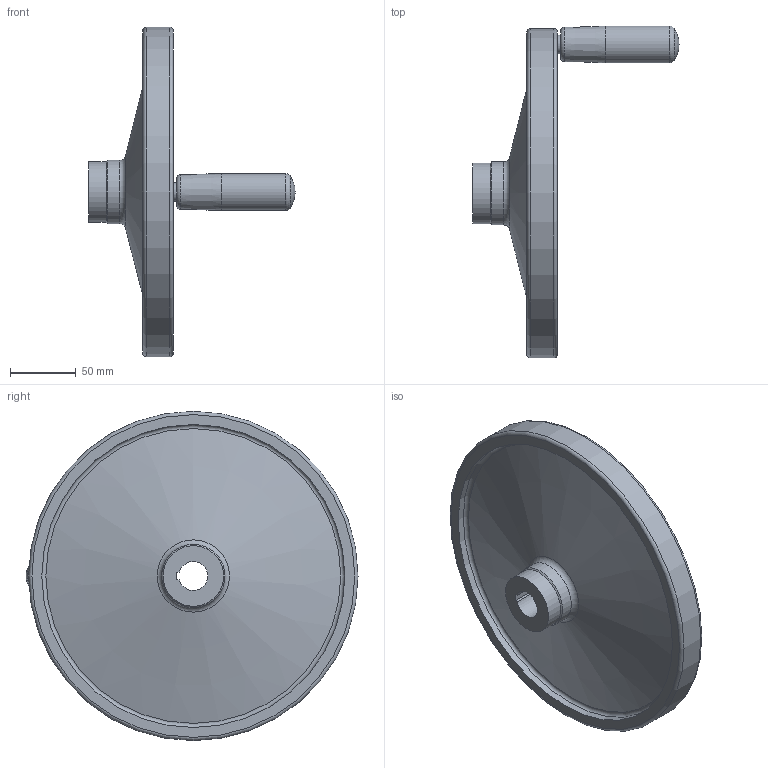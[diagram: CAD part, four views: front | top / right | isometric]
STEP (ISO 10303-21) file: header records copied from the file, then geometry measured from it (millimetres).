
FILE_DESCRIPTION( ( 'STEP AP203' ), '1' );
FILE_NAME( 'C:/Temp/Ganter_Step_05_03_2020/data/1_3/gn_321_5/gn_321_5_d/gn_321_5_d_zi/Safety handwheel GN 321.5-250-K22-D-ZI.stp', '2020-03-05T10:42:43', ( 'License CC BY-ND 4.0' ), ( 'CADENAS' ), ' ', 'PARTsolutions', ' ' );
FILE_SCHEMA( ( 'CONFIG_CONTROL_DESIGN' ) );
Length unit declared in the file: millimetre
Products named in the file (1): _Safety handwheel GN 321.5-250-K22-D-ZI
Bounding box: 156.5 x 252 x 250 mm (x, y, z)
Volume: 757349.6 mm3; surface area: 144038.7 mm2
Topology: 1 solids, 1 shells, 31 faces, 60 edges, 35 vertices
Faces by surface type: cylinder 9, plane 9, torus 7, cone 5, sphere 1
Full cylindrical faces by diameter (mm): 14 x1, 28 x1, 46 x2, 48 x1, 199 x1, 230 x1, 250 x1
Entity records: 720 total; most frequent: DIRECTION 130, CARTESIAN_POINT 105, ORIENTED_EDGE 76, AXIS2_PLACEMENT_3D 60, EDGE_LOOP 58, FACE_OUTER_BOUND 46, EDGE_CURVE 38, VERTEX_POINT 35
